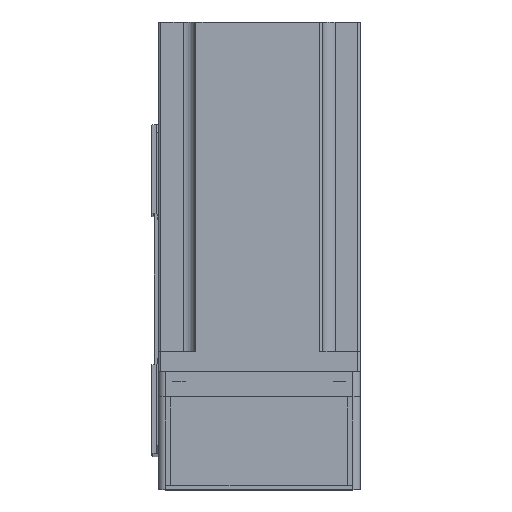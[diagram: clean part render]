
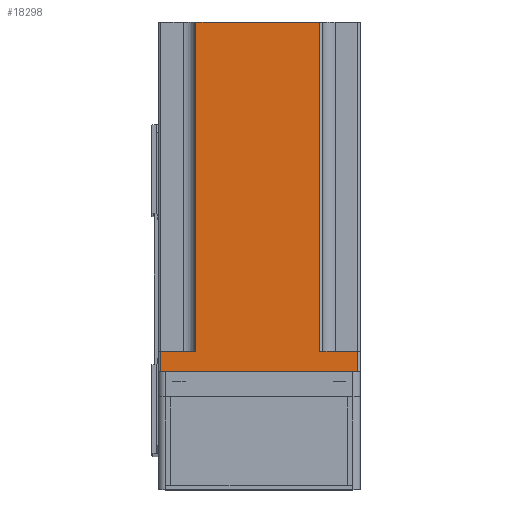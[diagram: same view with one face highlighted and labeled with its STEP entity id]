
A CAD part, top view. The second image highlights one B-rep face of the part: STEP entity #18298.
In plain terms, the highlighted planar face has unit normal (0, 0, 1) as drawn and (-1, 0, 0) by its records, which use the part's own axes.
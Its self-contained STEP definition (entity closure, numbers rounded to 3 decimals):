
#427 = CARTESIAN_POINT ( 'NONE',  ( -40., 25., 138.3 ) ) ;
#773 = AXIS2_PLACEMENT_3D ( 'NONE', #40887, #18942, #44579 ) ;
#2921 = VECTOR ( 'NONE', #13189, 1000. ) ;
#3890 = ORIENTED_EDGE ( 'NONE', *, *, #47017, .T. ) ;
#4297 = EDGE_CURVE ( 'NONE', #39744, #26459, #25813, .T. ) ;
#4462 = VERTEX_POINT ( 'NONE', #19227 ) ;
#4854 = LINE ( 'NONE', #10526, #22089 ) ;
#6876 = EDGE_CURVE ( 'NONE', #26459, #15151, #30964, .T. ) ;
#7176 = LINE ( 'NONE', #12118, #25532 ) ;
#7882 = ORIENTED_EDGE ( 'NONE', *, *, #4297, .F. ) ;
#9542 = LINE ( 'NONE', #26489, #29023 ) ;
#10526 = CARTESIAN_POINT ( 'NONE',  ( -40., -40., 0. ) ) ;
#12118 = CARTESIAN_POINT ( 'NONE',  ( -40., -40., 8. ) ) ;
#12530 = EDGE_CURVE ( 'NONE', #40804, #15151, #42971, .T. ) ;
#13188 = LINE ( 'NONE', #44709, #31512 ) ;
#13189 = DIRECTION ( 'NONE',  ( 0., -1., 0. ) ) ;
#15151 = VERTEX_POINT ( 'NONE', #22596 ) ;
#15320 = CARTESIAN_POINT ( 'NONE',  ( -40., -39., 8. ) ) ;
#15788 = EDGE_CURVE ( 'NONE', #40804, #34692, #7176, .T. ) ;
#16493 = EDGE_LOOP ( 'NONE', ( #23300, #22629, #36966, #7882, #37328, #31406, #3890, #25895 ) ) ;
#16555 = VERTEX_POINT ( 'NONE', #35376 ) ;
#16991 = CARTESIAN_POINT ( 'NONE',  ( -40., -24., 138.3 ) ) ;
#17890 = DIRECTION ( 'NONE',  ( 0., -1., 0. ) ) ;
#18298 = ADVANCED_FACE ( 'NONE', ( #39967 ), #33326, .F. ) ;
#18942 = DIRECTION ( 'NONE',  ( 1., 0., 0. ) ) ;
#19058 = DIRECTION ( 'NONE',  ( 0., 1., 0. ) ) ;
#19227 = CARTESIAN_POINT ( 'NONE',  ( -40., -39., 0. ) ) ;
#19469 = DIRECTION ( 'NONE',  ( 0., -1., 0. ) ) ;
#20592 = CARTESIAN_POINT ( 'NONE',  ( -40., 39., 8. ) ) ;
#20799 = CARTESIAN_POINT ( 'NONE',  ( -40., -24., 8. ) ) ;
#22089 = VECTOR ( 'NONE', #17890, 1000. ) ;
#22596 = CARTESIAN_POINT ( 'NONE',  ( -40., -24., 138.3 ) ) ;
#22629 = ORIENTED_EDGE ( 'NONE', *, *, #12530, .T. ) ;
#23093 = EDGE_CURVE ( 'NONE', #39744, #26827, #13188, .T. ) ;
#23300 = ORIENTED_EDGE ( 'NONE', *, *, #15788, .F. ) ;
#25532 = VECTOR ( 'NONE', #19469, 1000. ) ;
#25813 = LINE ( 'NONE', #47167, #45284 ) ;
#25895 = ORIENTED_EDGE ( 'NONE', *, *, #28752, .T. ) ;
#26364 = CARTESIAN_POINT ( 'NONE',  ( -40., 25., 8. ) ) ;
#26459 = VERTEX_POINT ( 'NONE', #427 ) ;
#26489 = CARTESIAN_POINT ( 'NONE',  ( -40., 39., 138.3 ) ) ;
#26827 = VERTEX_POINT ( 'NONE', #20592 ) ;
#27156 = EDGE_CURVE ( 'NONE', #26827, #16555, #9542, .T. ) ;
#28752 = EDGE_CURVE ( 'NONE', #4462, #34692, #39692, .T. ) ;
#29023 = VECTOR ( 'NONE', #29995, 1000. ) ;
#29995 = DIRECTION ( 'NONE',  ( 0., 0., -1. ) ) ;
#30964 = LINE ( 'NONE', #35080, #2921 ) ;
#31406 = ORIENTED_EDGE ( 'NONE', *, *, #27156, .T. ) ;
#31512 = VECTOR ( 'NONE', #19058, 1000. ) ;
#33326 = PLANE ( 'NONE',  #773 ) ;
#34692 = VERTEX_POINT ( 'NONE', #15320 ) ;
#35080 = CARTESIAN_POINT ( 'NONE',  ( -40., -40., 138.3 ) ) ;
#35198 = DIRECTION ( 'NONE',  ( 0., 0., 1. ) ) ;
#35376 = CARTESIAN_POINT ( 'NONE',  ( -40., 39., 0. ) ) ;
#36182 = DIRECTION ( 'NONE',  ( 0., 0., 1. ) ) ;
#36966 = ORIENTED_EDGE ( 'NONE', *, *, #6876, .F. ) ;
#37328 = ORIENTED_EDGE ( 'NONE', *, *, #23093, .T. ) ;
#38305 = VECTOR ( 'NONE', #35198, 1000. ) ;
#38523 = VECTOR ( 'NONE', #44322, 1000. ) ;
#39692 = LINE ( 'NONE', #40627, #38523 ) ;
#39744 = VERTEX_POINT ( 'NONE', #26364 ) ;
#39967 = FACE_OUTER_BOUND ( 'NONE', #16493, .T. ) ;
#40627 = CARTESIAN_POINT ( 'NONE',  ( -40., -39., 138.3 ) ) ;
#40804 = VERTEX_POINT ( 'NONE', #20799 ) ;
#40887 = CARTESIAN_POINT ( 'NONE',  ( -40., -40., 138.3 ) ) ;
#42971 = LINE ( 'NONE', #16991, #38305 ) ;
#44322 = DIRECTION ( 'NONE',  ( 0., 0., 1. ) ) ;
#44579 = DIRECTION ( 'NONE',  ( 0., 0., -1. ) ) ;
#44709 = CARTESIAN_POINT ( 'NONE',  ( -40., 40., 8. ) ) ;
#45284 = VECTOR ( 'NONE', #36182, 1000. ) ;
#47017 = EDGE_CURVE ( 'NONE', #16555, #4462, #4854, .T. ) ;
#47167 = CARTESIAN_POINT ( 'NONE',  ( -40., 25., 8. ) ) ;
